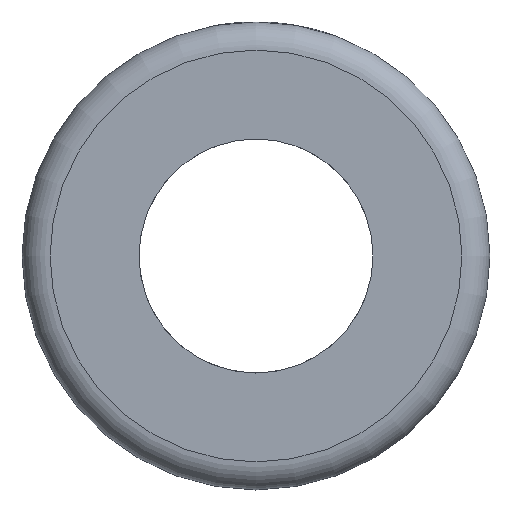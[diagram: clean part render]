
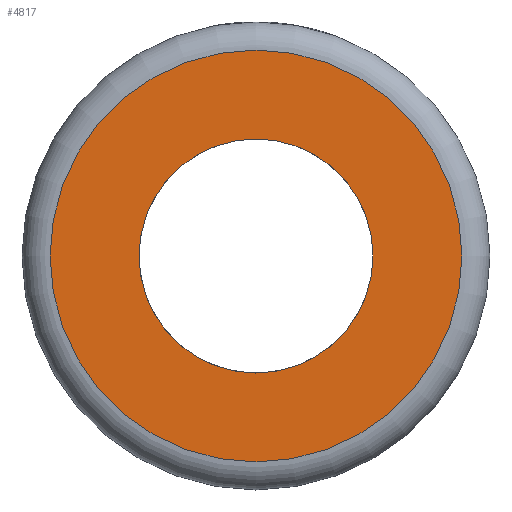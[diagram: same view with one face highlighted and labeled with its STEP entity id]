
A CAD part, left-side view. The second image highlights one B-rep face of the part: STEP entity #4817.
In plain terms, the highlighted planar face has unit normal (-1, 0, 0).
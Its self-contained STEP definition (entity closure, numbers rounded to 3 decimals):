
#110=PLANE('',#5188);
#1477=ORIENTED_EDGE('',*,*,#2930,.F.);
#1478=ORIENTED_EDGE('',*,*,#2929,.T.);
#2929=EDGE_CURVE('',#3656,#3656,#3986,.T.);
#2930=EDGE_CURVE('',#3657,#3657,#3987,.T.);
#3656=VERTEX_POINT('',#7383);
#3657=VERTEX_POINT('',#7386);
#3986=CIRCLE('',#5187,4.4);
#3987=CIRCLE('',#5189,2.5);
#4102=EDGE_LOOP('',(#1477));
#4103=EDGE_LOOP('',(#1478));
#4453=FACE_BOUND('',#4102,.T.);
#4454=FACE_BOUND('',#4103,.T.);
#4817=ADVANCED_FACE('',(#4453,#4454),#110,.F.);
#5187=AXIS2_PLACEMENT_3D('',#7382,#5677,#5678);
#5188=AXIS2_PLACEMENT_3D('',#7384,#5679,#5680);
#5189=AXIS2_PLACEMENT_3D('',#7385,#5681,#5682);
#5677=DIRECTION('',(-1.,0.,0.));
#5678=DIRECTION('',(0.,0.,1.));
#5679=DIRECTION('',(1.,0.,0.));
#5680=DIRECTION('',(0.,0.,-1.));
#5681=DIRECTION('',(-1.,0.,0.));
#5682=DIRECTION('',(0.,0.,1.));
#7382=CARTESIAN_POINT('',(0.75,0.,0.));
#7383=CARTESIAN_POINT('',(0.75,0.,4.4));
#7384=CARTESIAN_POINT('',(0.75,4.4,0.));
#7385=CARTESIAN_POINT('',(0.75,0.,0.));
#7386=CARTESIAN_POINT('',(0.75,0.,2.5));
